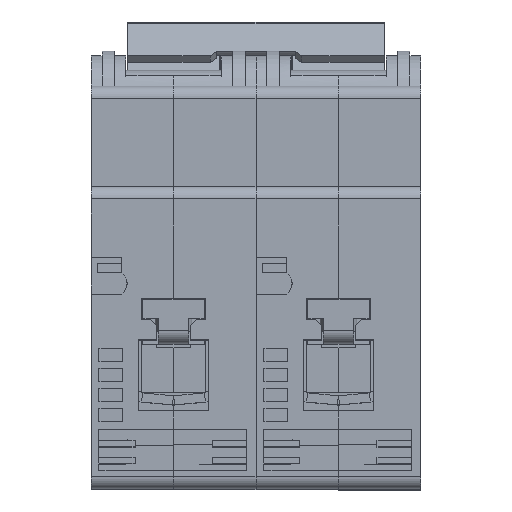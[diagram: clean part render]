
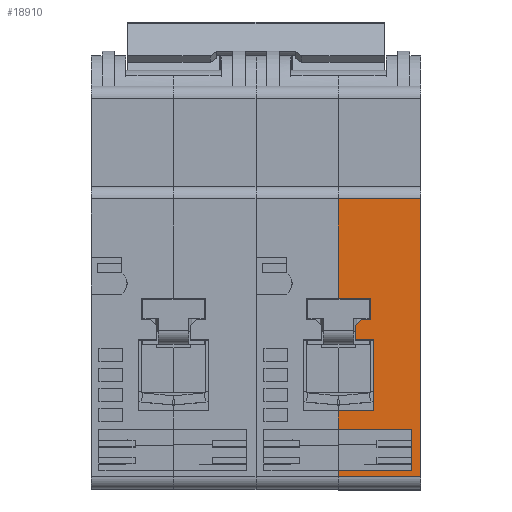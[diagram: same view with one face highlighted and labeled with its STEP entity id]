
A CAD part, top view. The second image highlights one B-rep face of the part: STEP entity #18910.
In plain terms, the highlighted planar face has unit normal (0, 0, 1).
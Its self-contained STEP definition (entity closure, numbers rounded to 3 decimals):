
#152 = VERTEX_POINT ( 'NONE', #14409 ) ;
#969 = VERTEX_POINT ( 'NONE', #26377 ) ;
#1025 = EDGE_CURVE ( 'NONE', #24552, #31534, #29414, .T. ) ;
#1195 = VECTOR ( 'NONE', #3357, 1000. ) ;
#1285 = LINE ( 'NONE', #19192, #28041 ) ;
#1865 = EDGE_CURVE ( 'NONE', #3832, #31560, #7679, .T. ) ;
#1982 = LINE ( 'NONE', #25116, #6503 ) ;
#2151 = CARTESIAN_POINT ( 'NONE',  ( -13.5, -16., 41.2 ) ) ;
#2457 = EDGE_CURVE ( 'NONE', #969, #3832, #12321, .T. ) ;
#2995 = ORIENTED_EDGE ( 'NONE', *, *, #28797, .F. ) ;
#3357 = DIRECTION ( 'NONE',  ( 1., 0., 0. ) ) ;
#3832 = VERTEX_POINT ( 'NONE', #6005 ) ;
#4119 = VECTOR ( 'NONE', #12744, 1000. ) ;
#4634 = DIRECTION ( 'NONE',  ( 0., 1., 0. ) ) ;
#4637 = VECTOR ( 'NONE', #8579, 1000. ) ;
#4638 = CARTESIAN_POINT ( 'NONE',  ( -7.7, -50.7, 41.2 ) ) ;
#4755 = ORIENTED_EDGE ( 'NONE', *, *, #31336, .T. ) ;
#4904 = VECTOR ( 'NONE', #13440, 1000. ) ;
#5458 = DIRECTION ( 'NONE',  ( -1., 0., 0. ) ) ;
#5501 = ORIENTED_EDGE ( 'NONE', *, *, #21366, .T. ) ;
#5718 = CARTESIAN_POINT ( 'NONE',  ( 0., -63.5, 41.2 ) ) ;
#5764 = CARTESIAN_POINT ( 'NONE',  ( -13.5, -63.5, 41.2 ) ) ;
#6005 = CARTESIAN_POINT ( 'NONE',  ( -1.5, -53.7, 41.2 ) ) ;
#6407 = LINE ( 'NONE', #27512, #15478 ) ;
#6503 = VECTOR ( 'NONE', #30145, 1000. ) ;
#6548 = ORIENTED_EDGE ( 'NONE', *, *, #31211, .F. ) ;
#6573 = LINE ( 'NONE', #28979, #4637 ) ;
#6634 = ORIENTED_EDGE ( 'NONE', *, *, #17835, .F. ) ;
#7038 = CARTESIAN_POINT ( 'NONE',  ( -9.7, -35.8, 41.2 ) ) ;
#7679 = LINE ( 'NONE', #28482, #19462 ) ;
#7830 = DIRECTION ( 'NONE',  ( -1., 0., 0. ) ) ;
#8140 = EDGE_CURVE ( 'NONE', #29554, #152, #25067, .T. ) ;
#8233 = DIRECTION ( 'NONE',  ( 0., -1., 0. ) ) ;
#8579 = DIRECTION ( 'NONE',  ( 0., 1., 0. ) ) ;
#8799 = ORIENTED_EDGE ( 'NONE', *, *, #30875, .T. ) ;
#8811 = CARTESIAN_POINT ( 'NONE',  ( -13.5, -16., 41.2 ) ) ;
#8908 = ORIENTED_EDGE ( 'NONE', *, *, #31853, .T. ) ;
#9613 = DIRECTION ( 'NONE',  ( 0., 1., 0. ) ) ;
#10697 = ORIENTED_EDGE ( 'NONE', *, *, #8140, .F. ) ;
#11013 = CARTESIAN_POINT ( 'NONE',  ( -13.5, -63.5, 41.2 ) ) ;
#12189 = VECTOR ( 'NONE', #17233, 1000. ) ;
#12321 = LINE ( 'NONE', #14078, #24958 ) ;
#12368 = CARTESIAN_POINT ( 'NONE',  ( -13.5, -50.7, 41.2 ) ) ;
#12373 = DIRECTION ( 'NONE',  ( -1., 0., 0. ) ) ;
#12449 = CARTESIAN_POINT ( 'NONE',  ( -10.7, -39.1, 41.2 ) ) ;
#12653 = VERTEX_POINT ( 'NONE', #4638 ) ;
#12744 = DIRECTION ( 'NONE',  ( -1., 0., 0. ) ) ;
#12816 = VECTOR ( 'NONE', #18349, 1000. ) ;
#13440 = DIRECTION ( 'NONE',  ( 0., -1., 0. ) ) ;
#13897 = CARTESIAN_POINT ( 'NONE',  ( -13.5, -32.3, 41.2 ) ) ;
#14078 = CARTESIAN_POINT ( 'NONE',  ( -1.5, -60.4, 41.2 ) ) ;
#14409 = CARTESIAN_POINT ( 'NONE',  ( -10.7, -39.1, 41.2 ) ) ;
#14505 = VERTEX_POINT ( 'NONE', #13897 ) ;
#14613 = ORIENTED_EDGE ( 'NONE', *, *, #27444, .T. ) ;
#14670 = VECTOR ( 'NONE', #21736, 1000. ) ;
#14706 = CARTESIAN_POINT ( 'NONE',  ( -13.5, -63.5, 41.2 ) ) ;
#14952 = ORIENTED_EDGE ( 'NONE', *, *, #31508, .F. ) ;
#15478 = VECTOR ( 'NONE', #12373, 1000. ) ;
#15625 = CARTESIAN_POINT ( 'NONE',  ( 0., -16., 41.2 ) ) ;
#15909 = ORIENTED_EDGE ( 'NONE', *, *, #1865, .F. ) ;
#15937 = EDGE_CURVE ( 'NONE', #30576, #18756, #18549, .T. ) ;
#16746 = CARTESIAN_POINT ( 'NONE',  ( -8.2, -32.3, 41.2 ) ) ;
#16811 = CARTESIAN_POINT ( 'NONE',  ( -7.7, -39.1, 41.2 ) ) ;
#17233 = DIRECTION ( 'NONE',  ( 0., -1., 0. ) ) ;
#17835 = EDGE_CURVE ( 'NONE', #12653, #29554, #6573, .T. ) ;
#17913 = ORIENTED_EDGE ( 'NONE', *, *, #22141, .F. ) ;
#18219 = ORIENTED_EDGE ( 'NONE', *, *, #2457, .F. ) ;
#18225 = VECTOR ( 'NONE', #8233, 1000. ) ;
#18279 = CARTESIAN_POINT ( 'NONE',  ( -13.5, -60.4, 41.2 ) ) ;
#18322 = CARTESIAN_POINT ( 'NONE',  ( 0., -61.5, 41.2 ) ) ;
#18349 = DIRECTION ( 'NONE',  ( 0., -1., 0. ) ) ;
#18421 = PLANE ( 'NONE',  #18952 ) ;
#18527 = CARTESIAN_POINT ( 'NONE',  ( -13.5, -53.7, 41.2 ) ) ;
#18538 = DIRECTION ( 'NONE',  ( 1., 0., 0. ) ) ;
#18549 = LINE ( 'NONE', #14706, #12189 ) ;
#18652 = EDGE_CURVE ( 'NONE', #152, #31813, #18860, .T. ) ;
#18756 = VERTEX_POINT ( 'NONE', #25352 ) ;
#18860 = LINE ( 'NONE', #12449, #31521 ) ;
#18910 = ADVANCED_FACE ( 'NONE', ( #29954 ), #18421, .T. ) ;
#18924 = EDGE_LOOP ( 'NONE', ( #17913, #31091, #2995, #6548, #23137, #10697, #6634, #14952, #8799, #15909, #18219, #14613, #21277, #4755, #30267, #8908, #5501 ) ) ;
#18952 = AXIS2_PLACEMENT_3D ( 'NONE', #5764, #21066, #18538 ) ;
#19192 = CARTESIAN_POINT ( 'NONE',  ( -1.5, -60.4, 41.2 ) ) ;
#19462 = VECTOR ( 'NONE', #5458, 1000. ) ;
#20162 = DIRECTION ( 'NONE',  ( 1., 0., 0. ) ) ;
#20200 = VECTOR ( 'NONE', #20162, 1000. ) ;
#20371 = CARTESIAN_POINT ( 'NONE',  ( -10.7, -39.1, 41.2 ) ) ;
#20382 = CARTESIAN_POINT ( 'NONE',  ( -7.7, -50.7, 41.2 ) ) ;
#21066 = DIRECTION ( 'NONE',  ( 0., 0., 1. ) ) ;
#21277 = ORIENTED_EDGE ( 'NONE', *, *, #15937, .T. ) ;
#21366 = EDGE_CURVE ( 'NONE', #27995, #14505, #26953, .T. ) ;
#21736 = DIRECTION ( 'NONE',  ( 0.707, 0.707, 0. ) ) ;
#22141 = EDGE_CURVE ( 'NONE', #31534, #14505, #6407, .T. ) ;
#22583 = EDGE_CURVE ( 'NONE', #28697, #29953, #24913, .T. ) ;
#22659 = VECTOR ( 'NONE', #4634, 1000. ) ;
#23137 = ORIENTED_EDGE ( 'NONE', *, *, #18652, .F. ) ;
#24552 = VERTEX_POINT ( 'NONE', #28963 ) ;
#24697 = VERTEX_POINT ( 'NONE', #12368 ) ;
#24913 = LINE ( 'NONE', #5718, #18225 ) ;
#24958 = VECTOR ( 'NONE', #28983, 1000. ) ;
#25067 = LINE ( 'NONE', #20371, #31820 ) ;
#25116 = CARTESIAN_POINT ( 'NONE',  ( -13.5, -61.5, 41.2 ) ) ;
#25352 = CARTESIAN_POINT ( 'NONE',  ( -13.5, -61.5, 41.2 ) ) ;
#25755 = LINE ( 'NONE', #2151, #4119 ) ;
#26118 = CARTESIAN_POINT ( 'NONE',  ( -8.2, -32.3, 41.2 ) ) ;
#26207 = CARTESIAN_POINT ( 'NONE',  ( -9.7, -35.8, 41.2 ) ) ;
#26377 = CARTESIAN_POINT ( 'NONE',  ( -1.5, -60.4, 41.2 ) ) ;
#26953 = LINE ( 'NONE', #11013, #4904 ) ;
#27444 = EDGE_CURVE ( 'NONE', #969, #30576, #1285, .T. ) ;
#27512 = CARTESIAN_POINT ( 'NONE',  ( -13.5, -32.3, 41.2 ) ) ;
#27995 = VERTEX_POINT ( 'NONE', #8811 ) ;
#28041 = VECTOR ( 'NONE', #31791, 1000. ) ;
#28482 = CARTESIAN_POINT ( 'NONE',  ( -1.5, -53.7, 41.2 ) ) ;
#28697 = VERTEX_POINT ( 'NONE', #15625 ) ;
#28797 = EDGE_CURVE ( 'NONE', #32378, #24552, #31524, .T. ) ;
#28963 = CARTESIAN_POINT ( 'NONE',  ( -8.2, -35.8, 41.2 ) ) ;
#28979 = CARTESIAN_POINT ( 'NONE',  ( -7.7, -50.7, 41.2 ) ) ;
#28983 = DIRECTION ( 'NONE',  ( 0., 1., 0. ) ) ;
#29288 = LINE ( 'NONE', #29705, #14670 ) ;
#29414 = LINE ( 'NONE', #16746, #22659 ) ;
#29442 = LINE ( 'NONE', #30190, #12816 ) ;
#29554 = VERTEX_POINT ( 'NONE', #16811 ) ;
#29555 = CARTESIAN_POINT ( 'NONE',  ( -10.7, -36.8, 41.2 ) ) ;
#29705 = CARTESIAN_POINT ( 'NONE',  ( -10.7, -36.8, 41.2 ) ) ;
#29953 = VERTEX_POINT ( 'NONE', #18322 ) ;
#29954 = FACE_OUTER_BOUND ( 'NONE', #18924, .T. ) ;
#30145 = DIRECTION ( 'NONE',  ( 1., 0., 0. ) ) ;
#30190 = CARTESIAN_POINT ( 'NONE',  ( -13.5, -63.5, 41.2 ) ) ;
#30267 = ORIENTED_EDGE ( 'NONE', *, *, #22583, .F. ) ;
#30576 = VERTEX_POINT ( 'NONE', #18279 ) ;
#30875 = EDGE_CURVE ( 'NONE', #24697, #31560, #29442, .T. ) ;
#31091 = ORIENTED_EDGE ( 'NONE', *, *, #1025, .F. ) ;
#31211 = EDGE_CURVE ( 'NONE', #31813, #32378, #29288, .T. ) ;
#31336 = EDGE_CURVE ( 'NONE', #18756, #29953, #1982, .T. ) ;
#31508 = EDGE_CURVE ( 'NONE', #24697, #12653, #32537, .T. ) ;
#31521 = VECTOR ( 'NONE', #9613, 1000. ) ;
#31524 = LINE ( 'NONE', #26207, #1195 ) ;
#31534 = VERTEX_POINT ( 'NONE', #26118 ) ;
#31560 = VERTEX_POINT ( 'NONE', #18527 ) ;
#31791 = DIRECTION ( 'NONE',  ( -1., 0., 0. ) ) ;
#31813 = VERTEX_POINT ( 'NONE', #29555 ) ;
#31820 = VECTOR ( 'NONE', #7830, 1000. ) ;
#31853 = EDGE_CURVE ( 'NONE', #28697, #27995, #25755, .T. ) ;
#32378 = VERTEX_POINT ( 'NONE', #7038 ) ;
#32537 = LINE ( 'NONE', #20382, #20200 ) ;
